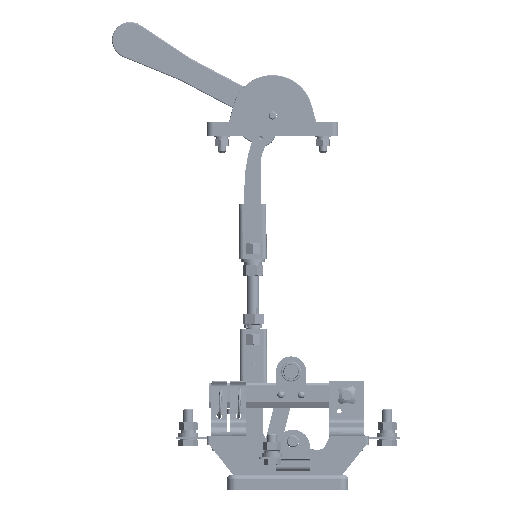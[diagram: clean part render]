
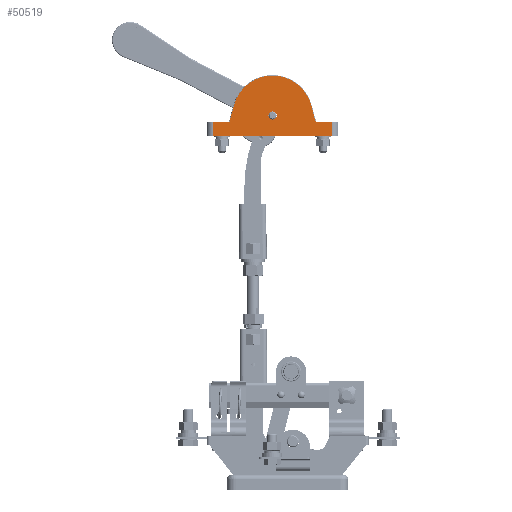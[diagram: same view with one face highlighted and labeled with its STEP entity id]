
A CAD part, left-side view. The second image highlights one B-rep face of the part: STEP entity #50519.
In plain terms, the highlighted planar face has unit normal (-1, 0, 0).
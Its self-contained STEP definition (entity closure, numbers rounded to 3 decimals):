
#3152 = VECTOR ( 'NONE', #105330, 1000. ) ;
#3685 = VECTOR ( 'NONE', #109961, 1000. ) ;
#4956 = ORIENTED_EDGE ( 'NONE', *, *, #81057, .T. ) ;
#8043 = VECTOR ( 'NONE', #150248, 1000. ) ;
#16134 = EDGE_LOOP ( 'NONE', ( #37429, #4956, #55167, #33668, #162857, #76410, #30295, #46005, #90917, #160394 ) ) ;
#16335 = EDGE_CURVE ( 'NONE', #102329, #100317, #33625, .T. ) ;
#17709 = VECTOR ( 'NONE', #64691, 1000. ) ;
#17791 = AXIS2_PLACEMENT_3D ( 'NONE', #112505, #57246, #138640 ) ;
#19007 = DIRECTION ( 'NONE',  ( -1., 0., 0. ) ) ;
#24133 = CIRCLE ( 'NONE', #96598, 4.05 ) ;
#24876 = CARTESIAN_POINT ( 'NONE',  ( 165., 15., 362. ) ) ;
#27334 = CARTESIAN_POINT ( 'NONE',  ( 165., -23.165, 378.682 ) ) ;
#27771 = EDGE_CURVE ( 'NONE', #36444, #138494, #89565, .T. ) ;
#27904 = EDGE_CURVE ( 'NONE', #85976, #85279, #122207, .T. ) ;
#29321 = EDGE_CURVE ( 'NONE', #123979, #158569, #24133, .T. ) ;
#30151 = DIRECTION ( 'NONE',  ( 0., 1., 0. ) ) ;
#30295 = ORIENTED_EDGE ( 'NONE', *, *, #171254, .F. ) ;
#33625 = LINE ( 'NONE', #62189, #3152 ) ;
#33668 = ORIENTED_EDGE ( 'NONE', *, *, #84360, .T. ) ;
#36444 = VERTEX_POINT ( 'NONE', #144606 ) ;
#37429 = ORIENTED_EDGE ( 'NONE', *, *, #37520, .T. ) ;
#37520 = EDGE_CURVE ( 'NONE', #85976, #53608, #164337, .T. ) ;
#38816 = CIRCLE ( 'NONE', #62933, 1. ) ;
#39695 = VECTOR ( 'NONE', #109834, 1000. ) ;
#43548 = CARTESIAN_POINT ( 'NONE',  ( 165., 15., 368.5 ) ) ;
#43737 = ORIENTED_EDGE ( 'NONE', *, *, #140832, .T. ) ;
#45775 = CARTESIAN_POINT ( 'NONE',  ( 165., -28.384, 362. ) ) ;
#46005 = ORIENTED_EDGE ( 'NONE', *, *, #16335, .T. ) ;
#47064 = CIRCLE ( 'NONE', #17791, 4.05 ) ;
#48835 = DIRECTION ( 'NONE',  ( 0., 1., 0. ) ) ;
#49903 = VERTEX_POINT ( 'NONE', #124696 ) ;
#50519 = ADVANCED_FACE ( 'NONE', ( #51623, #105949 ), #126702, .F. ) ;
#51623 = FACE_BOUND ( 'NONE', #96041, .T. ) ;
#51769 = CARTESIAN_POINT ( 'NONE',  ( 165., 74., 348.5 ) ) ;
#53608 = VERTEX_POINT ( 'NONE', #75755 ) ;
#55167 = ORIENTED_EDGE ( 'NONE', *, *, #27771, .F. ) ;
#57246 = DIRECTION ( 'NONE',  ( 1., 0., 0. ) ) ;
#58685 = EDGE_CURVE ( 'NONE', #160577, #91132, #96944, .T. ) ;
#59979 = LINE ( 'NONE', #127893, #133904 ) ;
#61277 = DIRECTION ( 'NONE',  ( 0., 1., 0. ) ) ;
#62189 = CARTESIAN_POINT ( 'NONE',  ( 165., 15., 362. ) ) ;
#62933 = AXIS2_PLACEMENT_3D ( 'NONE', #128357, #170783, #30151 ) ;
#62935 = VECTOR ( 'NONE', #124340, 1000. ) ;
#64691 = DIRECTION ( 'NONE',  ( 0., 1., 0. ) ) ;
#71579 = AXIS2_PLACEMENT_3D ( 'NONE', #160276, #144513, #61277 ) ;
#71606 = AXIS2_PLACEMENT_3D ( 'NONE', #43548, #172083, #155740 ) ;
#75755 = CARTESIAN_POINT ( 'NONE',  ( 165., -44., 362. ) ) ;
#76410 = ORIENTED_EDGE ( 'NONE', *, *, #58685, .T. ) ;
#78319 = LINE ( 'NONE', #24876, #17709 ) ;
#81057 = EDGE_CURVE ( 'NONE', #53608, #138494, #78319, .T. ) ;
#82347 = CARTESIAN_POINT ( 'NONE',  ( 165., 57.418, 362.742 ) ) ;
#84360 = EDGE_CURVE ( 'NONE', #36444, #49903, #147656, .T. ) ;
#85279 = VERTEX_POINT ( 'NONE', #51769 ) ;
#85976 = VERTEX_POINT ( 'NONE', #114778 ) ;
#87694 = ORIENTED_EDGE ( 'NONE', *, *, #29321, .T. ) ;
#89565 = CIRCLE ( 'NONE', #126694, 1. ) ;
#90917 = ORIENTED_EDGE ( 'NONE', *, *, #161877, .T. ) ;
#91132 = VERTEX_POINT ( 'NONE', #82347 ) ;
#95888 = CARTESIAN_POINT ( 'NONE',  ( 165., -50., 348.5 ) ) ;
#96041 = EDGE_LOOP ( 'NONE', ( #43737, #87694 ) ) ;
#96598 = AXIS2_PLACEMENT_3D ( 'NONE', #159278, #116781, #48835 ) ;
#96944 = LINE ( 'NONE', #112320, #3685 ) ;
#100317 = VERTEX_POINT ( 'NONE', #121702 ) ;
#102329 = VERTEX_POINT ( 'NONE', #166734 ) ;
#105330 = DIRECTION ( 'NONE',  ( 0., 1., 0. ) ) ;
#105949 = FACE_OUTER_BOUND ( 'NONE', #16134, .T. ) ;
#109834 = DIRECTION ( 'NONE',  ( 0., 1., 0. ) ) ;
#109961 = DIRECTION ( 'NONE',  ( 0., 0.258, -0.966 ) ) ;
#112320 = CARTESIAN_POINT ( 'NONE',  ( 165., 53.165, 378.682 ) ) ;
#112505 = CARTESIAN_POINT ( 'NONE',  ( 165., 15., 368.5 ) ) ;
#113688 = CARTESIAN_POINT ( 'NONE',  ( 165., 10.95, 368.5 ) ) ;
#114778 = CARTESIAN_POINT ( 'NONE',  ( 165., -44., 348.5 ) ) ;
#116557 = DIRECTION ( 'NONE',  ( 0., 1., 0. ) ) ;
#116781 = DIRECTION ( 'NONE',  ( 1., 0., 0. ) ) ;
#119886 = CARTESIAN_POINT ( 'NONE',  ( 165., 53.165, 378.682 ) ) ;
#121176 = CIRCLE ( 'NONE', #71579, 39.5 ) ;
#121702 = CARTESIAN_POINT ( 'NONE',  ( 165., 74., 362. ) ) ;
#122207 = LINE ( 'NONE', #95888, #39695 ) ;
#123979 = VERTEX_POINT ( 'NONE', #134309 ) ;
#124340 = DIRECTION ( 'NONE',  ( 0., 0.258, 0.966 ) ) ;
#124696 = CARTESIAN_POINT ( 'NONE',  ( 165., -23.165, 378.682 ) ) ;
#126694 = AXIS2_PLACEMENT_3D ( 'NONE', #146301, #19007, #116557 ) ;
#126702 = PLANE ( 'NONE',  #71606 ) ;
#127479 = EDGE_CURVE ( 'NONE', #49903, #160577, #121176, .T. ) ;
#127893 = CARTESIAN_POINT ( 'NONE',  ( 165., 74., 368.5 ) ) ;
#128357 = CARTESIAN_POINT ( 'NONE',  ( 165., 58.384, 363. ) ) ;
#133904 = VECTOR ( 'NONE', #170299, 1000. ) ;
#134309 = CARTESIAN_POINT ( 'NONE',  ( 165., 19.05, 368.5 ) ) ;
#136306 = CARTESIAN_POINT ( 'NONE',  ( 165., -44., 368.5 ) ) ;
#138494 = VERTEX_POINT ( 'NONE', #45775 ) ;
#138640 = DIRECTION ( 'NONE',  ( 0., 1., 0. ) ) ;
#140832 = EDGE_CURVE ( 'NONE', #158569, #123979, #47064, .T. ) ;
#144513 = DIRECTION ( 'NONE',  ( -1., 0., 0. ) ) ;
#144606 = CARTESIAN_POINT ( 'NONE',  ( 165., -27.418, 362.742 ) ) ;
#146301 = CARTESIAN_POINT ( 'NONE',  ( 165., -28.384, 363. ) ) ;
#147656 = LINE ( 'NONE', #27334, #62935 ) ;
#150248 = DIRECTION ( 'NONE',  ( 0., 0., 1. ) ) ;
#155740 = DIRECTION ( 'NONE',  ( 0., 1., 0. ) ) ;
#158569 = VERTEX_POINT ( 'NONE', #113688 ) ;
#159278 = CARTESIAN_POINT ( 'NONE',  ( 165., 15., 368.5 ) ) ;
#160276 = CARTESIAN_POINT ( 'NONE',  ( 165., 15., 368.5 ) ) ;
#160394 = ORIENTED_EDGE ( 'NONE', *, *, #27904, .F. ) ;
#160577 = VERTEX_POINT ( 'NONE', #119886 ) ;
#161877 = EDGE_CURVE ( 'NONE', #100317, #85279, #59979, .T. ) ;
#162857 = ORIENTED_EDGE ( 'NONE', *, *, #127479, .T. ) ;
#164337 = LINE ( 'NONE', #136306, #8043 ) ;
#166734 = CARTESIAN_POINT ( 'NONE',  ( 165., 58.384, 362. ) ) ;
#170299 = DIRECTION ( 'NONE',  ( 0., 0., -1. ) ) ;
#170783 = DIRECTION ( 'NONE',  ( -1., 0., 0. ) ) ;
#171254 = EDGE_CURVE ( 'NONE', #102329, #91132, #38816, .T. ) ;
#172083 = DIRECTION ( 'NONE',  ( 1., 0., 0. ) ) ;
